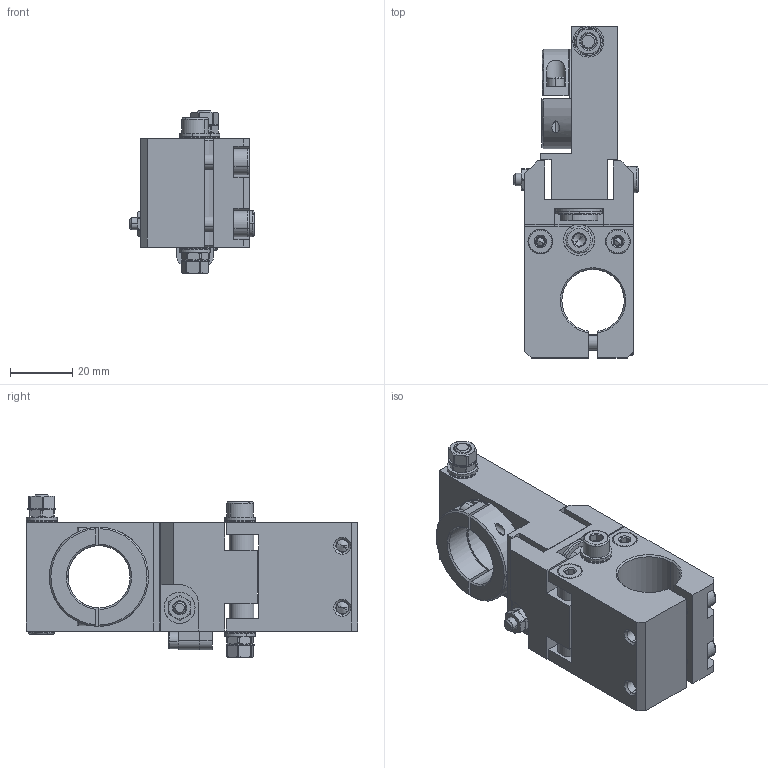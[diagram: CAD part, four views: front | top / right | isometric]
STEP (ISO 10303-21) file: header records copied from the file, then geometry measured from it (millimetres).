
FILE_DESCRIPTION (( 'STEP AP203' ), '1' );
FILE_NAME ('Äußere Flächen 0012724 B5-HD.STEP', '2019-03-06T08:25:12', ( '' ), ( '' ), 'SwSTEP 2.0', 'SolidWorks 2016', '' );
FILE_SCHEMA (( 'CONFIG_CONTROL_DESIGN' ));
Length unit declared in the file: millimetre
Products named in the file (1): Äußere Flächen 0012724 B5-HD
Bounding box: 40 x 107 x 52.5 mm (x, y, z)
Surface area: 35288.4 mm2 (no closed solid volume)
Topology: 0 solids, 44 shells, 559 faces, 1554 edges, 999 vertices
Faces by surface type: plane 250, cone 163, cylinder 130, bspline 16
Entity records: 18830 total; most frequent: CARTESIAN_POINT 4708, DIRECTION 3026, ORIENTED_EDGE 2672, EDGE_CURVE 1534, AXIS2_PLACEMENT_3D 1167, VERTEX_POINT 999, VECTOR 692, LINE 692
